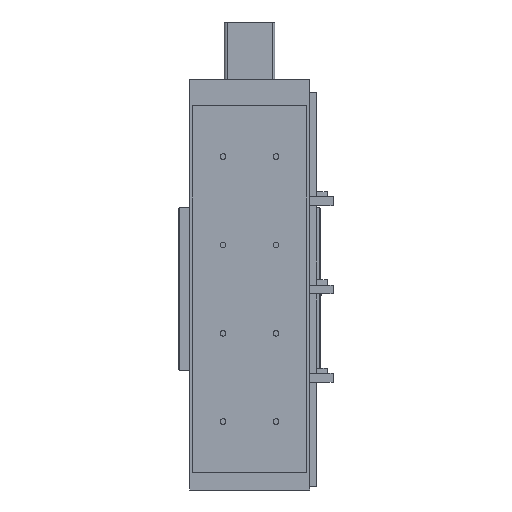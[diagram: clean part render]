
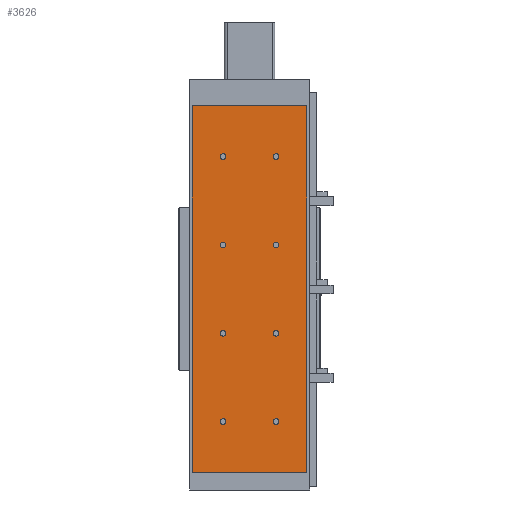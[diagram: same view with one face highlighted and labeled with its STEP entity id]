
A CAD part, front view. The second image highlights one B-rep face of the part: STEP entity #3626.
In plain terms, the highlighted planar face has unit normal (0, -1, 0).
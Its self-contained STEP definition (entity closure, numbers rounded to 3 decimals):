
#2145=CARTESIAN_POINT('',(-33.25,0.0,357.5));
#2146=VERTEX_POINT('',#2145);
#2147=CARTESIAN_POINT('',(-30.,0.0,357.5));
#2148=DIRECTION('',(0.0,1.0,0.0));
#2149=DIRECTION('',(1.0,0.0,0.0));
#2150=AXIS2_PLACEMENT_3D('',#2147,#2148,#2149);
#2151=CIRCLE('',#2150,3.25);
#2152=EDGE_CURVE('',#2146,#2146,#2151,.T.);
#2324=CARTESIAN_POINT('',(26.75,0.0,357.5));
#2325=VERTEX_POINT('',#2324);
#2326=CARTESIAN_POINT('',(30.,0.0,357.5));
#2327=DIRECTION('',(0.0,1.0,0.0));
#2328=DIRECTION('',(1.0,0.0,0.0));
#2329=AXIS2_PLACEMENT_3D('',#2326,#2327,#2328);
#2330=CIRCLE('',#2329,3.25);
#2331=EDGE_CURVE('',#2325,#2325,#2330,.T.);
#2365=CARTESIAN_POINT('',(-33.25,0.0,157.5));
#2366=VERTEX_POINT('',#2365);
#2367=CARTESIAN_POINT('',(-30.,0.0,157.5));
#2368=DIRECTION('',(0.0,1.0,0.0));
#2369=DIRECTION('',(1.0,0.0,0.0));
#2370=AXIS2_PLACEMENT_3D('',#2367,#2368,#2369);
#2371=CIRCLE('',#2370,3.25);
#2372=EDGE_CURVE('',#2366,#2366,#2371,.T.);
#2544=CARTESIAN_POINT('',(26.75,0.0,157.5));
#2545=VERTEX_POINT('',#2544);
#2546=CARTESIAN_POINT('',(30.,0.0,157.5));
#2547=DIRECTION('',(0.0,1.0,0.0));
#2548=DIRECTION('',(1.0,0.0,0.0));
#2549=AXIS2_PLACEMENT_3D('',#2546,#2547,#2548);
#2550=CIRCLE('',#2549,3.25);
#2551=EDGE_CURVE('',#2545,#2545,#2550,.T.);
#2585=CARTESIAN_POINT('',(-33.25,0.0,57.5));
#2586=VERTEX_POINT('',#2585);
#2587=CARTESIAN_POINT('',(-30.,0.0,57.5));
#2588=DIRECTION('',(0.0,1.0,0.0));
#2589=DIRECTION('',(1.0,0.0,0.0));
#2590=AXIS2_PLACEMENT_3D('',#2587,#2588,#2589);
#2591=CIRCLE('',#2590,3.25);
#2592=EDGE_CURVE('',#2586,#2586,#2591,.T.);
#2764=CARTESIAN_POINT('',(26.75,0.0,57.5));
#2765=VERTEX_POINT('',#2764);
#2766=CARTESIAN_POINT('',(30.,0.0,57.5));
#2767=DIRECTION('',(0.0,1.0,0.0));
#2768=DIRECTION('',(1.0,0.0,0.0));
#2769=AXIS2_PLACEMENT_3D('',#2766,#2767,#2768);
#2770=CIRCLE('',#2769,3.25);
#2771=EDGE_CURVE('',#2765,#2765,#2770,.T.);
#2874=CARTESIAN_POINT('',(26.75,0.0,257.5));
#2875=VERTEX_POINT('',#2874);
#2876=CARTESIAN_POINT('',(30.,0.0,257.5));
#2877=DIRECTION('',(0.0,1.0,0.0));
#2878=DIRECTION('',(1.0,0.0,0.0));
#2879=AXIS2_PLACEMENT_3D('',#2876,#2877,#2878);
#2880=CIRCLE('',#2879,3.25);
#2881=EDGE_CURVE('',#2875,#2875,#2880,.T.);
#2984=CARTESIAN_POINT('',(-33.25,0.0,257.5));
#2985=VERTEX_POINT('',#2984);
#2986=CARTESIAN_POINT('',(-30.,0.0,257.5));
#2987=DIRECTION('',(0.0,1.0,0.0));
#2988=DIRECTION('',(1.0,0.0,0.0));
#2989=AXIS2_PLACEMENT_3D('',#2986,#2987,#2988);
#2990=CIRCLE('',#2989,3.25);
#2991=EDGE_CURVE('',#2985,#2985,#2990,.T.);
#3318=CARTESIAN_POINT('',(65.0,0.0,0.0));
#3319=VERTEX_POINT('',#3318);
#3326=CARTESIAN_POINT('',(-65.0,0.0,0.0));
#3327=VERTEX_POINT('',#3326);
#3328=CARTESIAN_POINT('',(-65.0,0.0,0.0));
#3329=DIRECTION('',(1.0,0.0,0.0));
#3330=VECTOR('',#3329,130.0);
#3331=LINE('',#3328,#3330);
#3332=EDGE_CURVE('',#3327,#3319,#3331,.T.);
#3522=CARTESIAN_POINT('',(-65.0,0.0,415.0));
#3523=VERTEX_POINT('',#3522);
#3530=CARTESIAN_POINT('',(65.0,0.0,415.0));
#3531=VERTEX_POINT('',#3530);
#3532=CARTESIAN_POINT('',(65.0,0.0,415.0));
#3533=DIRECTION('',(-1.0,0.0,0.0));
#3534=VECTOR('',#3533,130.0);
#3535=LINE('',#3532,#3534);
#3536=EDGE_CURVE('',#3531,#3523,#3535,.T.);
#3559=CARTESIAN_POINT('',(-65.0,0.0,0.0));
#3560=DIRECTION('',(0.0,0.0,1.0));
#3561=VECTOR('',#3560,415.0);
#3562=LINE('',#3559,#3561);
#3563=EDGE_CURVE('',#3327,#3523,#3562,.T.);
#3581=CARTESIAN_POINT('',(65.0,0.0,0.0));
#3582=DIRECTION('',(0.0,0.0,1.0));
#3583=VECTOR('',#3582,415.0);
#3584=LINE('',#3581,#3583);
#3585=EDGE_CURVE('',#3319,#3531,#3584,.T.);
#3591=CARTESIAN_POINT('',(65.0,0.0,0.0));
#3592=DIRECTION('',(0.0,-1.0,0.0));
#3593=DIRECTION('',(0.0,0.0,-1.0));
#3594=AXIS2_PLACEMENT_3D('',#3591,#3592,#3593);
#3595=PLANE('',#3594);
#3596=ORIENTED_EDGE('',*,*,#3536,.T.);
#3597=ORIENTED_EDGE('',*,*,#3563,.F.);
#3598=ORIENTED_EDGE('',*,*,#3332,.T.);
#3599=ORIENTED_EDGE('',*,*,#3585,.T.);
#3600=EDGE_LOOP('',(#3596,#3597,#3598,#3599));
#3601=FACE_OUTER_BOUND('',#3600,.T.);
#3602=ORIENTED_EDGE('',*,*,#2152,.T.);
#3603=EDGE_LOOP('',(#3602));
#3604=FACE_BOUND('',#3603,.T.);
#3605=ORIENTED_EDGE('',*,*,#2331,.T.);
#3606=EDGE_LOOP('',(#3605));
#3607=FACE_BOUND('',#3606,.T.);
#3608=ORIENTED_EDGE('',*,*,#2372,.T.);
#3609=EDGE_LOOP('',(#3608));
#3610=FACE_BOUND('',#3609,.T.);
#3611=ORIENTED_EDGE('',*,*,#2551,.T.);
#3612=EDGE_LOOP('',(#3611));
#3613=FACE_BOUND('',#3612,.T.);
#3614=ORIENTED_EDGE('',*,*,#2592,.T.);
#3615=EDGE_LOOP('',(#3614));
#3616=FACE_BOUND('',#3615,.T.);
#3617=ORIENTED_EDGE('',*,*,#2771,.T.);
#3618=EDGE_LOOP('',(#3617));
#3619=FACE_BOUND('',#3618,.T.);
#3620=ORIENTED_EDGE('',*,*,#2881,.T.);
#3621=EDGE_LOOP('',(#3620));
#3622=FACE_BOUND('',#3621,.T.);
#3623=ORIENTED_EDGE('',*,*,#2991,.T.);
#3624=EDGE_LOOP('',(#3623));
#3625=FACE_BOUND('',#3624,.T.);
#3626=ADVANCED_FACE('',(#3601,#3604,#3607,#3610,#3613,#3616,#3619,#3622,#3625),#3595,.T.);
